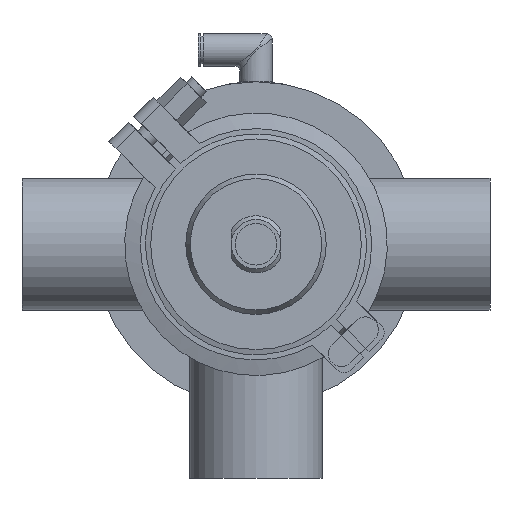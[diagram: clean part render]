
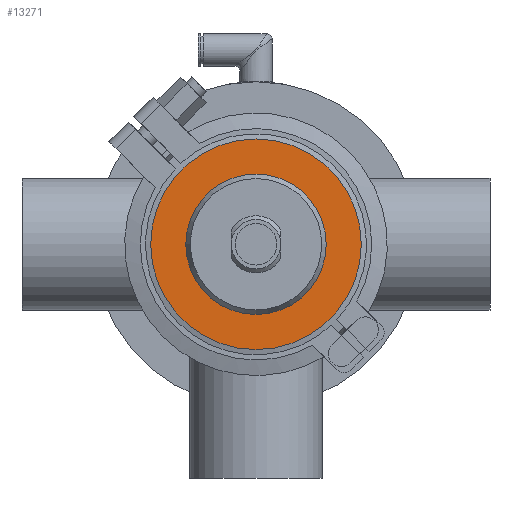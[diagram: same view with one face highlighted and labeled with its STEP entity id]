
A CAD part, front view. The second image highlights one B-rep face of the part: STEP entity #13271.
In plain terms, the highlighted planar face has unit normal (0, -1, 0).
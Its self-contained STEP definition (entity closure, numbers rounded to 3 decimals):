
#862 = FACE_BOUND ( 'NONE', #16131, .T. ) ;
#1524 = DIRECTION ( 'NONE',  ( 0., -1., 0. ) ) ;
#2938 = DIRECTION ( 'NONE',  ( 0., 0., -1. ) ) ;
#3473 = AXIS2_PLACEMENT_3D ( 'NONE', #16498, #18387, #19947 ) ;
#4619 = FACE_OUTER_BOUND ( 'NONE', #20863, .T. ) ;
#4933 = CARTESIAN_POINT ( 'NONE',  ( 0., -13., 27. ) ) ;
#5610 = VERTEX_POINT ( 'NONE', #12362 ) ;
#6296 = DIRECTION ( 'NONE',  ( 0., 0., 1. ) ) ;
#9687 = CIRCLE ( 'NONE', #14300, 27. ) ;
#9847 = CARTESIAN_POINT ( 'NONE',  ( 0., -13., 0. ) ) ;
#9962 = EDGE_CURVE ( 'NONE', #5610, #5610, #13757, .T. ) ;
#10161 = ORIENTED_EDGE ( 'NONE', *, *, #9962, .F. ) ;
#11284 = DIRECTION ( 'NONE',  ( 0., 1., 0. ) ) ;
#11582 = VERTEX_POINT ( 'NONE', #4933 ) ;
#11833 = CARTESIAN_POINT ( 'NONE',  ( -40.5, -13., 0. ) ) ;
#12362 = CARTESIAN_POINT ( 'NONE',  ( 0., -13., 40.5 ) ) ;
#12636 = EDGE_CURVE ( 'NONE', #11582, #11582, #9687, .T. ) ;
#13271 = ADVANCED_FACE ( 'NONE', ( #862, #4619 ), #14845, .T. ) ;
#13757 = CIRCLE ( 'NONE', #3473, 40.5 ) ;
#14300 = AXIS2_PLACEMENT_3D ( 'NONE', #9847, #11284, #6296 ) ;
#14845 = PLANE ( 'NONE',  #19985 ) ;
#16131 = EDGE_LOOP ( 'NONE', ( #21823 ) ) ;
#16498 = CARTESIAN_POINT ( 'NONE',  ( 0., -13., 0. ) ) ;
#18387 = DIRECTION ( 'NONE',  ( 0., 1., 0. ) ) ;
#19947 = DIRECTION ( 'NONE',  ( 0., 0., 1. ) ) ;
#19985 = AXIS2_PLACEMENT_3D ( 'NONE', #11833, #1524, #2938 ) ;
#20863 = EDGE_LOOP ( 'NONE', ( #10161 ) ) ;
#21823 = ORIENTED_EDGE ( 'NONE', *, *, #12636, .T. ) ;
